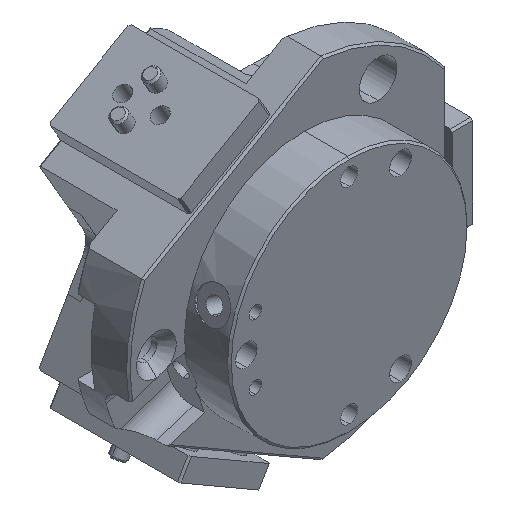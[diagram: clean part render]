
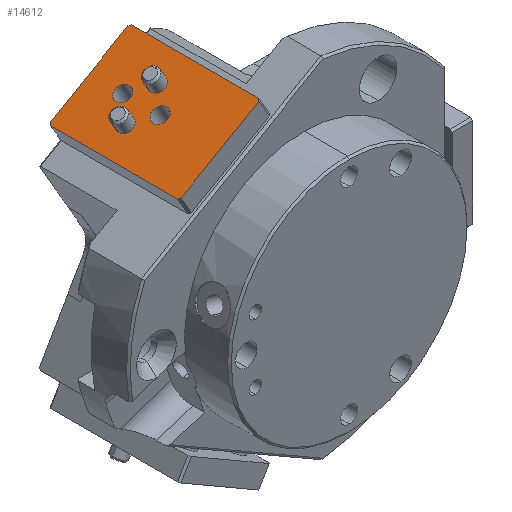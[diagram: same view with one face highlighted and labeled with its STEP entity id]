
A CAD part, isometric view. The second image highlights one B-rep face of the part: STEP entity #14612.
In plain terms, the highlighted planar face has unit normal (-0.5, 0, 0.866) as drawn and (1, 0, 0) by its records, which use the part's own axes.
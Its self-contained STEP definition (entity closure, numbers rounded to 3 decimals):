
#275 = CARTESIAN_POINT ( 'NONE',  ( 0., 0., 12. ) ) ;
#492 = FACE_BOUND ( 'NONE', #683, .T. ) ;
#683 = EDGE_LOOP ( 'NONE', ( #45062, #37869 ) ) ;
#1473 = CIRCLE ( 'NONE', #24951, 2. ) ;
#1958 = CARTESIAN_POINT ( 'NONE',  ( 0., 21., -7. ) ) ;
#1960 = DIRECTION ( 'NONE',  ( 0., 1., 0. ) ) ;
#2135 = EDGE_CURVE ( 'NONE', #24260, #49600, #33389, .T. ) ;
#2702 = CIRCLE ( 'NONE', #39639, 2. ) ;
#2934 = DIRECTION ( 'NONE',  ( 0., 0., -1. ) ) ;
#3108 = VERTEX_POINT ( 'NONE', #20048 ) ;
#3326 = VERTEX_POINT ( 'NONE', #17056 ) ;
#3912 = CIRCLE ( 'NONE', #10074, 2. ) ;
#4233 = VECTOR ( 'NONE', #12522, 1000. ) ;
#4793 = EDGE_CURVE ( 'NONE', #8020, #35752, #2702, .T. ) ;
#5955 = ORIENTED_EDGE ( 'NONE', *, *, #42125, .F. ) ;
#6881 = DIRECTION ( 'NONE',  ( 1., 0., 0. ) ) ;
#6957 = EDGE_LOOP ( 'NONE', ( #30596, #28156 ) ) ;
#7378 = CARTESIAN_POINT ( 'NONE',  ( 0., 16., 2.05 ) ) ;
#7629 = LINE ( 'NONE', #40087, #38341 ) ;
#8020 = VERTEX_POINT ( 'NONE', #1958 ) ;
#8374 = CARTESIAN_POINT ( 'NONE',  ( 0., 21., 3. ) ) ;
#8638 = CARTESIAN_POINT ( 'NONE',  ( 0., 35., 12. ) ) ;
#9215 = VERTEX_POINT ( 'NONE', #8374 ) ;
#9894 = CARTESIAN_POINT ( 'NONE',  ( 0., 21., 7. ) ) ;
#10047 = EDGE_LOOP ( 'NONE', ( #49416, #25263 ) ) ;
#10074 = AXIS2_PLACEMENT_3D ( 'NONE', #35123, #12056, #38991 ) ;
#10458 = DIRECTION ( 'NONE',  ( 0., 0., 1. ) ) ;
#10606 = CARTESIAN_POINT ( 'NONE',  ( 0., 35., 12.5 ) ) ;
#10663 = FACE_OUTER_BOUND ( 'NONE', #35750, .T. ) ;
#11407 = CARTESIAN_POINT ( 'NONE',  ( 0., 35., -12. ) ) ;
#11834 = EDGE_CURVE ( 'NONE', #44656, #26032, #34941, .T. ) ;
#11856 = CIRCLE ( 'NONE', #45413, 2.05 ) ;
#12056 = DIRECTION ( 'NONE',  ( 1., 0., 0. ) ) ;
#12522 = DIRECTION ( 'NONE',  ( 0., -0.707, 0.707 ) ) ;
#12765 = CARTESIAN_POINT ( 'NONE',  ( 0., 35., 12. ) ) ;
#13479 = DIRECTION ( 'NONE',  ( 1., 0., 0. ) ) ;
#13613 = CARTESIAN_POINT ( 'NONE',  ( 0., 21., -3. ) ) ;
#13964 = LINE ( 'NONE', #42288, #24191 ) ;
#14379 = AXIS2_PLACEMENT_3D ( 'NONE', #49016, #25922, #2934 ) ;
#14509 = EDGE_CURVE ( 'NONE', #44656, #42878, #40831, .T. ) ;
#14549 = AXIS2_PLACEMENT_3D ( 'NONE', #42737, #19640, #46608 ) ;
#14612 = ADVANCED_FACE ( 'NONE', ( #20876, #10663, #31158, #492, #40170 ), #49853, .F. ) ;
#15249 = DIRECTION ( 'NONE',  ( 1., 0., 0. ) ) ;
#15497 = EDGE_CURVE ( 'NONE', #32799, #28433, #7629, .T. ) ;
#15986 = VECTOR ( 'NONE', #44089, 1000. ) ;
#16121 = ORIENTED_EDGE ( 'NONE', *, *, #43449, .F. ) ;
#16140 = DIRECTION ( 'NONE',  ( 0., 0., 1. ) ) ;
#17056 = CARTESIAN_POINT ( 'NONE',  ( 0., 0., -12. ) ) ;
#17995 = ORIENTED_EDGE ( 'NONE', *, *, #11834, .T. ) ;
#18364 = DIRECTION ( 'NONE',  ( 0., 0., -1. ) ) ;
#19014 = EDGE_CURVE ( 'NONE', #49600, #24260, #35860, .T. ) ;
#19640 = DIRECTION ( 'NONE',  ( 1., 0., 0. ) ) ;
#20048 = CARTESIAN_POINT ( 'NONE',  ( 0., 34.5, -12.5 ) ) ;
#20107 = EDGE_CURVE ( 'NONE', #35752, #8020, #3912, .T. ) ;
#20304 = VECTOR ( 'NONE', #18364, 1000. ) ;
#20876 = FACE_BOUND ( 'NONE', #10047, .T. ) ;
#21062 = CARTESIAN_POINT ( 'NONE',  ( 0., 0., 12.5 ) ) ;
#21274 = EDGE_CURVE ( 'NONE', #45959, #3326, #25016, .T. ) ;
#21667 = CARTESIAN_POINT ( 'NONE',  ( 0., 21., 5. ) ) ;
#22143 = CARTESIAN_POINT ( 'NONE',  ( 0., 21., -5. ) ) ;
#22149 = ORIENTED_EDGE ( 'NONE', *, *, #41261, .F. ) ;
#22522 = CARTESIAN_POINT ( 'NONE',  ( 0., 35., 12.5 ) ) ;
#23003 = EDGE_LOOP ( 'NONE', ( #5955, #42088 ) ) ;
#23151 = AXIS2_PLACEMENT_3D ( 'NONE', #22522, #39233, #16140 ) ;
#23988 = ORIENTED_EDGE ( 'NONE', *, *, #14509, .F. ) ;
#24144 = EDGE_CURVE ( 'NONE', #9215, #44747, #1473, .T. ) ;
#24191 = VECTOR ( 'NONE', #26616, 1000. ) ;
#24260 = VERTEX_POINT ( 'NONE', #7378 ) ;
#24384 = CIRCLE ( 'NONE', #29614, 2. ) ;
#24624 = ORIENTED_EDGE ( 'NONE', *, *, #45981, .F. ) ;
#24951 = AXIS2_PLACEMENT_3D ( 'NONE', #21667, #48663, #25558 ) ;
#25016 = LINE ( 'NONE', #44602, #15986 ) ;
#25204 = EDGE_CURVE ( 'NONE', #3108, #42878, #27257, .T. ) ;
#25263 = ORIENTED_EDGE ( 'NONE', *, *, #4793, .F. ) ;
#25558 = DIRECTION ( 'NONE',  ( 0., 0., 1. ) ) ;
#25664 = LINE ( 'NONE', #21062, #47390 ) ;
#25922 = DIRECTION ( 'NONE',  ( 1., 0., 0. ) ) ;
#26032 = VERTEX_POINT ( 'NONE', #49192 ) ;
#26039 = DIRECTION ( 'NONE',  ( 0., 0., 1. ) ) ;
#26447 = CARTESIAN_POINT ( 'NONE',  ( 0., 0.5, -12.5 ) ) ;
#26616 = DIRECTION ( 'NONE',  ( 0., -1., 0. ) ) ;
#26653 = VERTEX_POINT ( 'NONE', #31430 ) ;
#26774 = CARTESIAN_POINT ( 'NONE',  ( 0., 16., -2.05 ) ) ;
#27257 = LINE ( 'NONE', #43459, #47779 ) ;
#28156 = ORIENTED_EDGE ( 'NONE', *, *, #2135, .F. ) ;
#28433 = VERTEX_POINT ( 'NONE', #49429 ) ;
#28849 = ORIENTED_EDGE ( 'NONE', *, *, #25204, .T. ) ;
#29273 = EDGE_CURVE ( 'NONE', #47800, #26653, #48284, .T. ) ;
#29614 = AXIS2_PLACEMENT_3D ( 'NONE', #36553, #13479, #40445 ) ;
#29666 = CARTESIAN_POINT ( 'NONE',  ( 0., 0., 12.5 ) ) ;
#29950 = CARTESIAN_POINT ( 'NONE',  ( 0., 26., 0. ) ) ;
#30014 = ORIENTED_EDGE ( 'NONE', *, *, #15497, .F. ) ;
#30160 = AXIS2_PLACEMENT_3D ( 'NONE', #38334, #15249, #42228 ) ;
#30596 = ORIENTED_EDGE ( 'NONE', *, *, #19014, .F. ) ;
#31158 = FACE_BOUND ( 'NONE', #6957, .T. ) ;
#31430 = CARTESIAN_POINT ( 'NONE',  ( 0., 26., 2.05 ) ) ;
#32799 = VERTEX_POINT ( 'NONE', #275 ) ;
#33389 = CIRCLE ( 'NONE', #14379, 2.05 ) ;
#33833 = DIRECTION ( 'NONE',  ( 0., 0., -1. ) ) ;
#34941 = LINE ( 'NONE', #8638, #4233 ) ;
#35123 = CARTESIAN_POINT ( 'NONE',  ( 0., 21., -5. ) ) ;
#35750 = EDGE_LOOP ( 'NONE', ( #39716, #24624, #28849, #23988, #17995, #22149, #30014, #16121 ) ) ;
#35752 = VERTEX_POINT ( 'NONE', #13613 ) ;
#35860 = CIRCLE ( 'NONE', #14549, 2.05 ) ;
#36553 = CARTESIAN_POINT ( 'NONE',  ( 0., 21., 5. ) ) ;
#37609 = VECTOR ( 'NONE', #10458, 1000. ) ;
#37869 = ORIENTED_EDGE ( 'NONE', *, *, #40448, .F. ) ;
#38334 = CARTESIAN_POINT ( 'NONE',  ( 0., 26., 0. ) ) ;
#38341 = VECTOR ( 'NONE', #47379, 1000. ) ;
#38991 = DIRECTION ( 'NONE',  ( 0., 0., 1. ) ) ;
#39233 = DIRECTION ( 'NONE',  ( -1., 0., 0. ) ) ;
#39639 = AXIS2_PLACEMENT_3D ( 'NONE', #22143, #49136, #26039 ) ;
#39716 = ORIENTED_EDGE ( 'NONE', *, *, #21274, .F. ) ;
#40087 = CARTESIAN_POINT ( 'NONE',  ( 0., 0., 12. ) ) ;
#40170 = FACE_BOUND ( 'NONE', #23003, .T. ) ;
#40445 = DIRECTION ( 'NONE',  ( 0., 0., 1. ) ) ;
#40448 = EDGE_CURVE ( 'NONE', #26653, #47800, #11856, .T. ) ;
#40831 = LINE ( 'NONE', #10606, #20304 ) ;
#41261 = EDGE_CURVE ( 'NONE', #28433, #26032, #25664, .T. ) ;
#42088 = ORIENTED_EDGE ( 'NONE', *, *, #24144, .F. ) ;
#42125 = EDGE_CURVE ( 'NONE', #44747, #9215, #24384, .T. ) ;
#42228 = DIRECTION ( 'NONE',  ( 0., 0., -1. ) ) ;
#42288 = CARTESIAN_POINT ( 'NONE',  ( 0., 0., -12.5 ) ) ;
#42737 = CARTESIAN_POINT ( 'NONE',  ( 0., 16., 0. ) ) ;
#42878 = VERTEX_POINT ( 'NONE', #11407 ) ;
#42912 = CARTESIAN_POINT ( 'NONE',  ( 0., 26., -2.05 ) ) ;
#43449 = EDGE_CURVE ( 'NONE', #3326, #32799, #47874, .T. ) ;
#43459 = CARTESIAN_POINT ( 'NONE',  ( 0., 34.5, -12.5 ) ) ;
#44089 = DIRECTION ( 'NONE',  ( 0., -0.707, 0.707 ) ) ;
#44602 = CARTESIAN_POINT ( 'NONE',  ( 0., 0.5, -12.5 ) ) ;
#44656 = VERTEX_POINT ( 'NONE', #12765 ) ;
#44747 = VERTEX_POINT ( 'NONE', #9894 ) ;
#45062 = ORIENTED_EDGE ( 'NONE', *, *, #29273, .F. ) ;
#45413 = AXIS2_PLACEMENT_3D ( 'NONE', #29950, #6881, #33833 ) ;
#45959 = VERTEX_POINT ( 'NONE', #26447 ) ;
#45981 = EDGE_CURVE ( 'NONE', #3108, #45959, #13964, .T. ) ;
#46608 = DIRECTION ( 'NONE',  ( 0., 0., -1. ) ) ;
#47333 = DIRECTION ( 'NONE',  ( 0., 0.707, 0.707 ) ) ;
#47379 = DIRECTION ( 'NONE',  ( 0., 0.707, 0.707 ) ) ;
#47390 = VECTOR ( 'NONE', #1960, 1000. ) ;
#47779 = VECTOR ( 'NONE', #47333, 1000. ) ;
#47800 = VERTEX_POINT ( 'NONE', #42912 ) ;
#47874 = LINE ( 'NONE', #29666, #37609 ) ;
#48284 = CIRCLE ( 'NONE', #30160, 2.05 ) ;
#48663 = DIRECTION ( 'NONE',  ( 1., 0., 0. ) ) ;
#49016 = CARTESIAN_POINT ( 'NONE',  ( 0., 16., 0. ) ) ;
#49136 = DIRECTION ( 'NONE',  ( 1., 0., 0. ) ) ;
#49192 = CARTESIAN_POINT ( 'NONE',  ( 0., 34.5, 12.5 ) ) ;
#49416 = ORIENTED_EDGE ( 'NONE', *, *, #20107, .F. ) ;
#49429 = CARTESIAN_POINT ( 'NONE',  ( 0., 0.5, 12.5 ) ) ;
#49600 = VERTEX_POINT ( 'NONE', #26774 ) ;
#49853 = PLANE ( 'NONE',  #23151 ) ;
